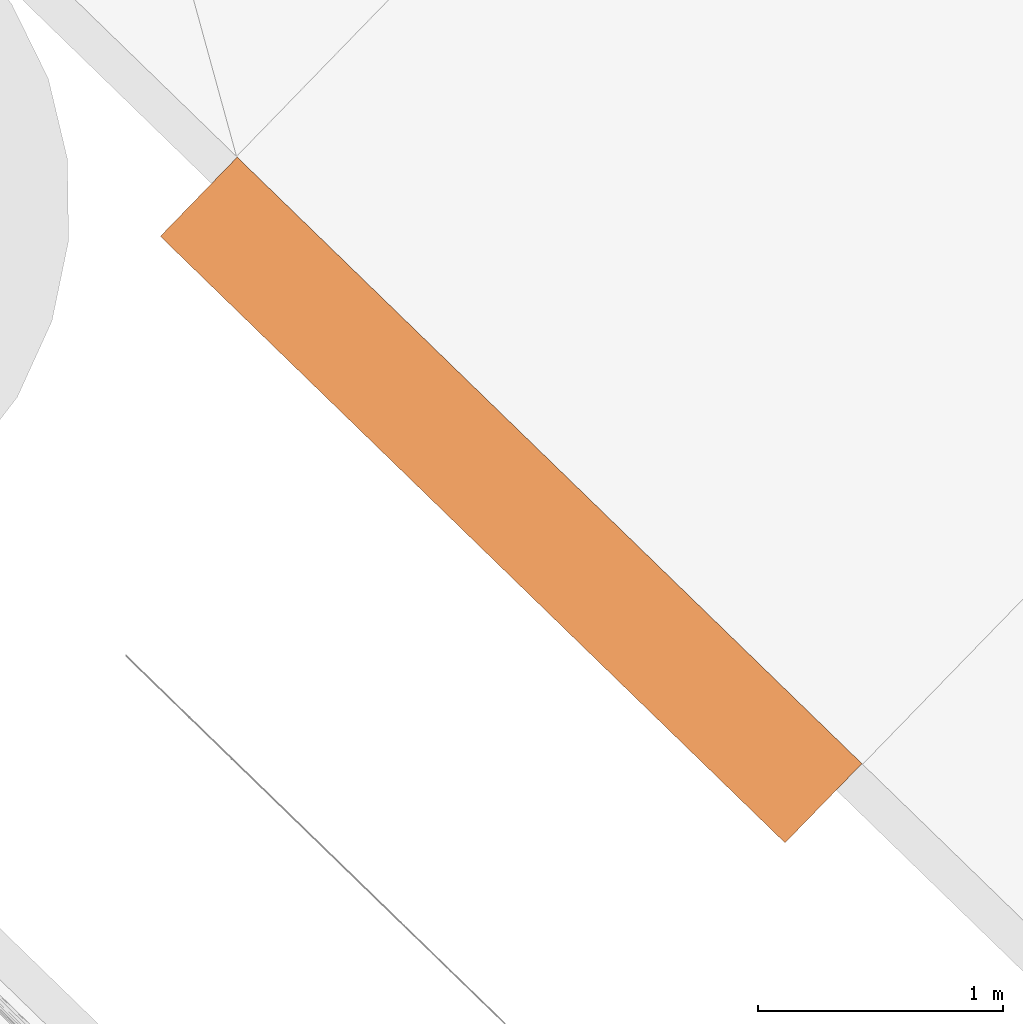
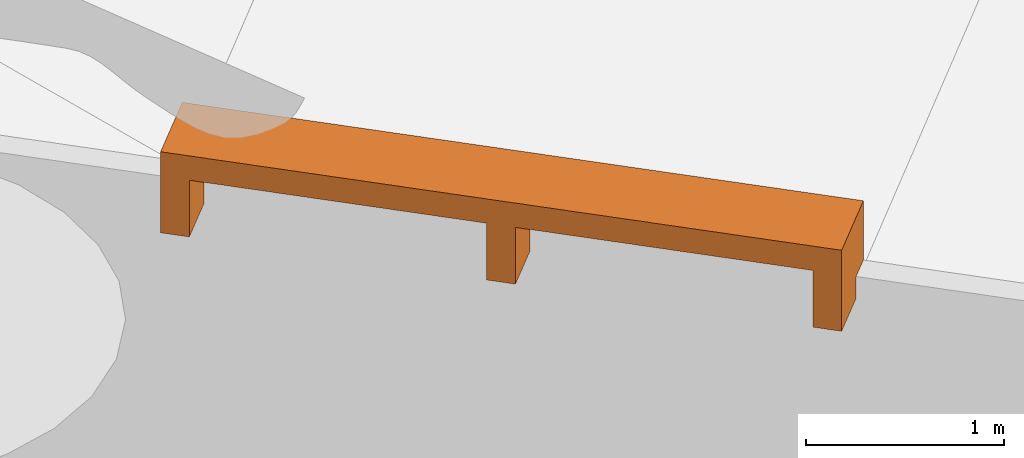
# One storey, part 33 of 37: 1 proxy.
"""IFC2X3 building model written with IfcOpenShell, lengths in centimetres."""

from ifc_helpers import new_model, entity, si_unit, converted_unit, derived_unit, direction, frame, origin, place, context, subcontext, project, spatial, faceted_brep, source, transform, mapped, type_object, type_shapes, element, save


model = new_model("IFC2X3")

# Units and contexts
model_context = context("Model", 3, precision=0.001, world=origin(), true_north=direction((0.717475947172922, 0.696583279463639)))
body_context = subcontext(model_context, "Body", "Model", "MODEL_VIEW")
ifc_project = project(units=[si_unit("LENGTHUNIT", "METRE", prefix="CENTI"), si_unit("AREAUNIT", "SQUARE_METRE"), si_unit("VOLUMEUNIT", "CUBIC_METRE"), converted_unit("PLANEANGLEUNIT", "DEGREE", entity("IfcRatioMeasure", 0.0174532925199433), si_unit("PLANEANGLEUNIT", "RADIAN"), dimensions=[0, 0, 0, 0, 0, 0, 0]), si_unit("MASSUNIT", "GRAM", prefix="KILO"), derived_unit("MASSDENSITYUNIT", [(si_unit("MASSUNIT", "GRAM", prefix="KILO"), 1), (si_unit("LENGTHUNIT", "METRE"), -3)]), si_unit("TIMEUNIT", "SECOND"), si_unit("FREQUENCYUNIT", "HERTZ"), si_unit("THERMODYNAMICTEMPERATUREUNIT", "DEGREE_CELSIUS"), derived_unit("THERMALTRANSMITTANCEUNIT", [(si_unit("MASSUNIT", "GRAM", prefix="KILO"), 1), (si_unit("THERMODYNAMICTEMPERATUREUNIT", "KELVIN"), -1), (si_unit("TIMEUNIT", "SECOND"), -3)]), derived_unit("VOLUMETRICFLOWRATEUNIT", [(si_unit("LENGTHUNIT", "METRE"), 3), (si_unit("TIMEUNIT", "SECOND"), -1)]), si_unit("ELECTRICCURRENTUNIT", "AMPERE"), si_unit("ELECTRICVOLTAGEUNIT", "VOLT"), si_unit("POWERUNIT", "WATT"), si_unit("FORCEUNIT", "NEWTON", prefix="KILO"), si_unit("ILLUMINANCEUNIT", "LUX"), si_unit("LUMINOUSFLUXUNIT", "LUMEN"), si_unit("LUMINOUSINTENSITYUNIT", "CANDELA"), derived_unit("USERDEFINED", [(si_unit("MASSUNIT", "GRAM", prefix="KILO"), -1), (si_unit("LENGTHUNIT", "METRE"), -2), (si_unit("TIMEUNIT", "SECOND"), 3), (si_unit("LUMINOUSFLUXUNIT", "LUMEN"), 1)]), derived_unit("LINEARVELOCITYUNIT", [(si_unit("LENGTHUNIT", "METRE"), 1), (si_unit("TIMEUNIT", "SECOND"), -1)]), si_unit("PRESSUREUNIT", "PASCAL"), derived_unit("USERDEFINED", [(si_unit("LENGTHUNIT", "METRE"), -2), (si_unit("MASSUNIT", "GRAM", prefix="KILO"), 1), (si_unit("TIMEUNIT", "SECOND"), -2)])], contexts=[model_context])

# Site, building, storey
site_placement = place(None, frame((0.0, 0.0, 0.0), z_axis=(0.0, 0.0, 1.0), x_axis=(0.696583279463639, 0.717475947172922, 0.0)))
site = spatial("IfcSite", under=ifc_project, at=site_placement, Name="Surface", CompositionType="ELEMENT")
building_placement = place(site_placement, origin())
building = spatial("IfcBuilding", under=site, at=building_placement, CompositionType="ELEMENT")
storey_placement = place(building_placement, origin())
storey = spatial("IfcBuildingStorey", under=building, at=storey_placement, Name="Nivel 0.00", CompositionType="ELEMENT", Elevation=0.0)

# Proxy
building_element_proxy_type = type_object("IfcBuildingElementProxyType", Name="ARQ_BANCA_PADRES", PredefinedType="NOTDEFINED")
shared_shape = source(origin(), body_context, "Body", "Brep", [
    faceted_brep([(177.5, -45.0, 40.0), (-177.5, -45.0, 40.0), (-177.5, -45.0, 3.49999999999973), (-162.5, -45.0, 3.49999999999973), (-162.5, -45.0, 25.0), (-7.5, -45.0, 25.0), (-7.5, -45.0, 3.49999999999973), (7.5, -45.0, 3.49999999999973), (7.5, -45.0, 25.0), (162.5, -45.0, 25.0), (162.5, -45.0, 3.49999999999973), (177.5, -45.0, 3.49999999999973), (177.5, 0.0, 40.0), (177.5, 0.0, -10.0), (162.5, 0.0, -10.0), (162.5, 0.0, 25.0), (7.5, 0.0, 25.0), (7.5, 0.0, -10.0), (-7.5, 0.0, -10.0), (-7.5, 0.0, 25.0), (-162.5, 0.0, 25.0), (-162.5, 0.0, -10.0), (-177.5, 0.0, -10.0), (-177.5, 0.0, 40.0), (-177.5, -30.0, -10.0), (-177.5, -30.0, 3.49999999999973), (-162.5, -30.0, -10.0), (-162.5, -30.0, 3.49999999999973), (-7.5, -30.0, -10.0), (-7.5, -30.0, 3.49999999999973), (7.5, -30.0, -10.0), (7.5, -30.0, 3.49999999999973), (162.5, -30.0, -10.0), (162.5, -30.0, 3.49999999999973), (177.5, -30.0, -10.0), (177.5, -30.0, 3.49999999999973)], [[[0, 1, 2, 3, 4, 5, 6, 7, 8, 9, 10, 11]], [[12, 13, 14, 15, 16, 17, 18, 19, 20, 21, 22, 23]], [[1, 0, 12, 23]], [[23, 22, 24, 25, 2, 1]], [[22, 21, 26, 24]], [[21, 20, 4, 3, 27, 26]], [[5, 4, 20, 19]], [[19, 18, 28, 29, 6, 5]], [[18, 17, 30, 28]], [[17, 16, 8, 7, 31, 30]], [[9, 8, 16, 15]], [[15, 14, 32, 33, 10, 9]], [[14, 13, 34, 32]], [[13, 12, 0, 11, 35, 34]], [[33, 35, 11, 10]], [[35, 33, 32, 34]], [[31, 29, 28, 30]], [[27, 25, 24, 26]], [[29, 31, 7, 6]], [[25, 27, 3, 2]]]),
])
type_shapes(building_element_proxy_type, [shared_shape])
proxy_placement = place(storey_placement, frame((-1950.75707802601, -100.341488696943, 146.542685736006), z_axis=(0.0, 0.0, 1.0), x_axis=(0.0, 1.0, 0.0)))
element("IfcBuildingElementProxy", 1, at=proxy_placement, inside=storey, type_object=building_element_proxy_type, Name="ARQ_BANCA_PADRES:ARQ_BANCA_PADRES", ObjectType="ARQ_BANCA_PADRES", context=body_context, shape_type="MappedRepresentation", body=[
    mapped(shared_shape, transform((0.0, 0.0, 0.0), scale=1.0)),
])

save(model, "model.ifc")
